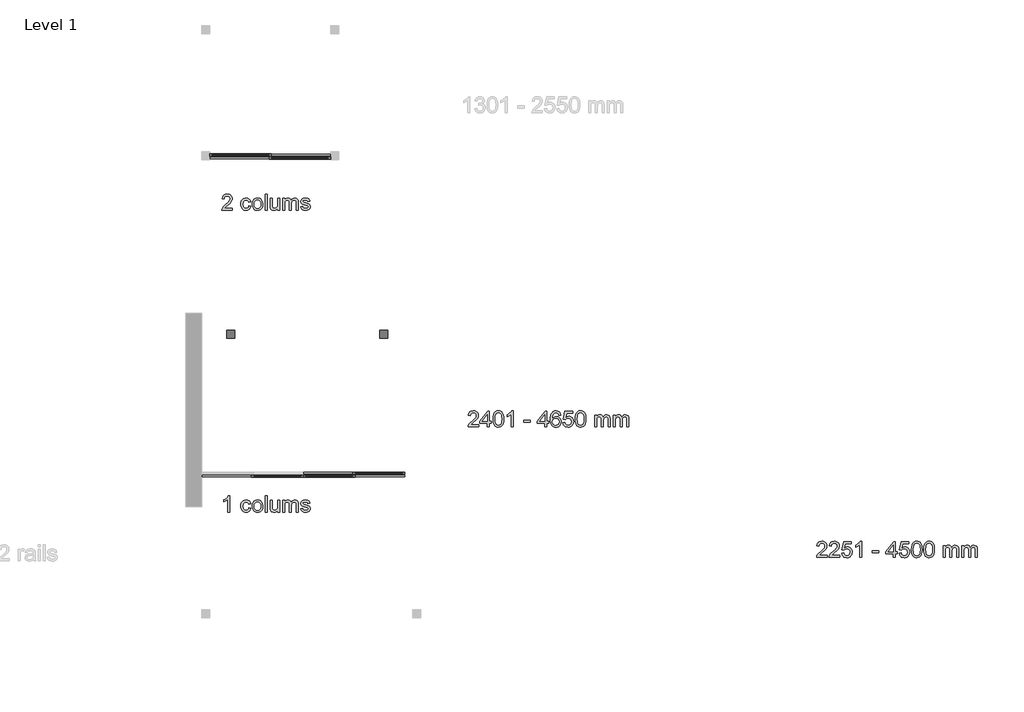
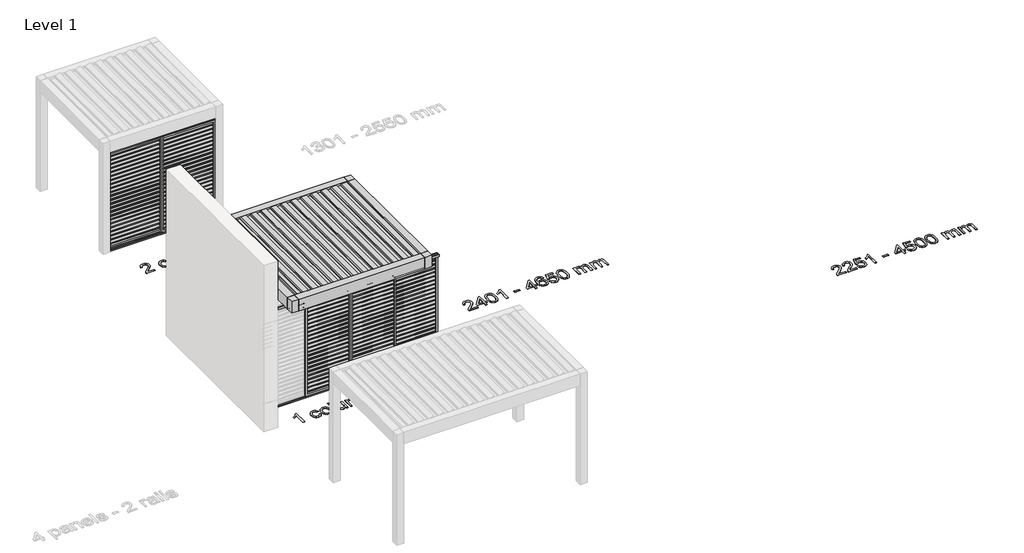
# One storey, part 34 of 69: 10 proxies.
"""IFC4 building model written with IfcOpenShell, lengths in millimetres."""

from ifc_helpers import new_model, si_unit, origin, origin_with_axes, place, context, project, spatial, polyline, outline, extrude, transform, mapped, element, save
from components import generic_models_f1411d27, generic_models_b7cc87ee, generic_models_f57387b0, generic_models_8f5adf67, generic_models_a1f2db59, generic_models_ce49d216

model = new_model("IFC4")

# Units and contexts
model_context = context("Model", 3, world=origin())
ifc_project = project(units=[si_unit("LENGTHUNIT", "METRE", prefix="MILLI")], contexts=[model_context])

# Site, building, storey
site = spatial("IfcSite", under=ifc_project)
building = spatial("IfcBuilding", under=site)
storey = spatial("IfcBuildingStorey", under=building, Name="Level 1", Elevation=0.0)

# Proxies
placement = place(None, origin())
generic_models_shape = generic_models_f1411d27(model_context)
element("IfcBuildingElementProxy", 1, Name="Renson_Camargue_Loggia_Paro_Aluminium : Renson_Camargue_Loggia_Paro_Aluminium", ObjectType="Renson_Camargue_Loggia_Paro_Aluminium : Renson_Camargue_Loggia_Paro_Aluminium", at=placement, inside=storey, context=model_context, shape_type="MappedRepresentation", body=[
    mapped(generic_models_shape, transform((229971.2027724, -16206.484658, 0.0), x_axis=(1.0, 0.0, 0.0), y_axis=(0.0, 1.0, 0.0), z_axis=(0.0, 0.0, 1.0))),
])
generic_models_2_shape = generic_models_b7cc87ee(model_context)
element("IfcBuildingElementProxy", 2, Name="Renson_Camargue_Loggia_Paro_Aluminium : Renson_Camargue_Loggia_Paro_Aluminium", ObjectType="Renson_Camargue_Loggia_Paro_Aluminium : Renson_Camargue_Loggia_Paro_Aluminium", at=placement, inside=storey, context=model_context, shape_type="MappedRepresentation", body=[
    mapped(generic_models_2_shape, transform((231076.2027724, -16262.5751621, 0.0), x_axis=(1.0, 0.0, 0.0), y_axis=(0.0, 1.0, 0.0), z_axis=(0.0, 0.0, 1.0))),
])
generic_models_3_shape = generic_models_f57387b0(model_context)
element("IfcBuildingElementProxy", 3, Name="Renson_Camargue_Loggia_Paro_Aluminium : Renson_Camargue_Loggia_Paro_Aluminium", ObjectType="Renson_Camargue_Loggia_Paro_Aluminium : Renson_Camargue_Loggia_Paro_Aluminium", at=placement, inside=storey, context=model_context, shape_type="MappedRepresentation", body=[
    mapped(generic_models_3_shape, transform((230656.2027724, -22183.0299225, 0.0), x_axis=(1.0, 0.0, 0.0), y_axis=(0.0, 1.0, 0.0), z_axis=(0.0, 0.0, 1.0))),
])
generic_models_4_shape = generic_models_8f5adf67(model_context)
element("IfcBuildingElementProxy", 4, Name="Renson_Camargue_Loggia_Paro_Aluminium : Renson_Camargue_Loggia_Paro_Aluminium", ObjectType="Renson_Camargue_Loggia_Paro_Aluminium : Renson_Camargue_Loggia_Paro_Aluminium", at=placement, inside=storey, context=model_context, shape_type="MappedRepresentation", body=[
    mapped(generic_models_4_shape, transform((232546.2027724, -22126.9394184, 0.0), x_axis=(-1.0, 0.0, 0.0), y_axis=(0.0, -1.0, 0.0), z_axis=(0.0, 0.0, 1.0))),
])
generic_models_5_shape = generic_models_a1f2db59(model_context)
element("IfcBuildingElementProxy", 5, Name="Renson_Camargue_Loggia_Paro_Aluminium : Renson_Camargue_Loggia_Paro_Aluminium", ObjectType="Renson_Camargue_Loggia_Paro_Aluminium : Renson_Camargue_Loggia_Paro_Aluminium", at=placement, inside=storey, context=model_context, shape_type="MappedRepresentation", body=[
    mapped(generic_models_5_shape, transform((231621.2027724, -22183.0299225, 0.0), x_axis=(-1.0, 0.0, 0.0), y_axis=(0.0, -1.0, 0.0), z_axis=(0.0, 0.0, 1.0))),
])
generic_models_6_shape = generic_models_ce49d216(model_context)
element("IfcBuildingElementProxy", 6, Name="Renson_Camargue_Facade-Mounted_Patio covers : Renson_Camargue_Facade-Mounted_Patio covers", ObjectType="Renson_Camargue_Facade-Mounted_Patio covers : Renson_Camargue_Facade-Mounted_Patio covers", at=placement, inside=storey, context=model_context, shape_type="MappedRepresentation", body=[
    mapped(generic_models_6_shape, transform((231213.7027724, -20966.9394184, 0.0), x_axis=(1.0, 0.0, 0.0), y_axis=(0.0, 1.0, 0.0), z_axis=(0.0, 0.0, 1.0))),
])
element("IfcBuildingElementProxy", 7, Name="300mm Arial", ObjectType="300mm Arial", at=placement, inside=storey, context=model_context, shape_type="SweptSolid", body=[
    extrude(outline(polyline([(229821.478426, -17195.4816949), (229821.478426, -17233.1528113), (229623.7050654, -17233.1528113), (229627.7517673, -17207.1803424), (229637.0407877, -17186.8824533), (229650.6340274, -17167.1915695), (229670.2973201, -17146.5809807), (229697.7964992, -17123.5239767), (229738.4474597, -17087.4163589), (229762.838036, -17060.7633083), (229775.0333241, -17039.131847), (229779.0984202, -17018.0889969), (229775.2632504, -16999.2258476), (229763.757741, -16983.5448775), (229746.071814, -16972.9774672), (229723.6953917, -16969.4549971), (229700.1969292, -16972.8946938), (229681.9407852, -16983.2137837), (229670.1593643, -16999.6029266), (229666.0850712, -17021.252782), (229628.4139549, -17016.5438925), (229637.5466255, -16980.1051809), (229646.0929841, -16965.5692435), (229657.2926916, -16953.4889185), (229670.8882305, -16943.9929645), (229686.6220836, -16937.2101402), (229724.5047321, -16931.7838808), (229744.6945558, -16933.292197), (229762.663292, -16937.8171455), (229778.4109407, -16945.3587264), (229791.9375018, -16955.9169397), (229802.801517, -16968.7100361), (229810.5615278, -16982.9562663), (229815.2175343, -16998.6556305), (229816.7695365, -17015.8081285), (229815.0956734, -17033.8251492), (229810.0740842, -17051.5294702), (229801.1621428, -17069.5372939), (229787.8172234, -17088.4648226), (229766.5444471, -17111.0619741), (229733.8489348, -17140.0786665), (229690.5124357, -17176.315043), (229673.5162875, -17195.4816949), (229821.478426, -17195.4816949)])), origin_with_axes(), (0.0, 0.0, 1.0), 5.0),
    extrude(outline(polyline([(230127.556246, -17153.1016891), (230165.2273623, -17157.8105786), (230154.7243313, -17191.3154314), (230134.9874623, -17216.6349097), (230107.8745593, -17232.555003), (230075.2434263, -17237.8617008), (230054.1155034, -17236.0107945), (230035.17188, -17230.4580756), (230018.4125558, -17221.2035442), (230003.837531, -17208.2472002), (229992.0400153, -17191.8327654), (229983.6132183, -17172.2039617), (229978.5571402, -17149.3607891), (229976.8717808, -17123.3032475), (229979.7504574, -17089.7800007), (229988.3864872, -17060.7265201), (230002.917826, -17037.2648459), (230023.4824296, -17020.517018), (230048.084538, -17010.4738396), (230074.7283915, -17007.1261134), (230106.5593811, -17011.7246384), (230132.0076181, -17025.5202132), (230150.2637621, -17047.7770739), (230160.5184728, -17077.7594565), (230122.8473565, -17082.468346), (230116.0139484, -17066.0332179), (230105.3729617, -17054.251797), (230091.5130075, -17047.1608715), (230075.0226971, -17044.7972297), (230050.6781061, -17049.450937), (230031.3551043, -17063.4120587), (230018.7459489, -17087.434753), (230014.5428971, -17122.2731779), (230018.6539784, -17157.5806524), (230030.9872223, -17181.6861201), (230049.9607362, -17195.5644684), (230073.9926275, -17200.1905845), (230093.4995703, -17197.3027108), (230109.49324, -17188.6390898), (230121.1275081, -17173.9789923), (230127.556246, -17153.1016891)])), origin_with_axes(), (0.0, 0.0, 1.0), 5.0),
    extrude(outline(polyline([(230188.77181, -17122.4939071), (230190.8089565, -17093.8313012), (230196.9203962, -17069.1326237), (230207.1061289, -17048.3978748), (230221.3661548, -17031.6270543), (230235.7227496, -17020.9078927), (230251.5692666, -17013.2513486), (230268.9057056, -17008.6574222), (230287.7320667, -17007.1261134), (230308.5151002, -17008.9908153), (230327.3069723, -17014.5849209), (230344.1076832, -17023.9084302), (230358.9172328, -17036.9613432), (230371.0044556, -17053.3022016), (230379.6381861, -17072.4895469), (230384.8184245, -17094.5233792), (230386.5451706, -17119.4036983), (230383.49175, -17157.4610907), (230374.3314884, -17186.4317979), (230359.3311, -17208.1276385), (230338.7572994, -17224.3604316), (230314.3207379, -17234.4863835), (230287.7320667, -17237.8617008), (230266.6455306, -17236.0038967), (230247.6789145, -17230.4304845), (230230.8322184, -17221.1414641), (230216.1054422, -17208.1368356), (230204.1469781, -17191.6373281), (230195.6052181, -17171.8636709), (230190.480162, -17148.8158639), (230188.77181, -17122.4939071)]), holes=[polyline([(230226.4429263, -17122.4203307), (230230.8023279, -17156.5137946), (230243.8805329, -17180.8032033), (230263.5622196, -17195.3437392), (230287.7320667, -17200.1905845), (230311.7915492, -17195.316148), (230331.4364477, -17180.6928387), (230344.5146526, -17156.0815333), (230348.8740543, -17121.2431083), (230344.4870615, -17088.1429258), (230331.3260831, -17064.1846109), (230311.6535934, -17049.644075), (230287.7320667, -17044.7972297), (230263.5622196, -17049.6256809), (230243.8805329, -17064.1110345), (230230.8023279, -17088.3452609), (230226.4429263, -17122.4203307)])]), origin_with_axes(), (0.0, 0.0, 1.0), 5.0),
    extrude(outline(polyline([(230428.9251764, -17233.1528113), (230428.9251764, -16931.7838808), (230466.5962927, -16931.7838808), (230466.5962927, -17233.1528113), (230428.9251764, -17233.1528113)])), origin_with_axes(), (0.0, 0.0, 1.0), 5.0),
    extrude(outline(polyline([(230664.3696534, -17233.1528113), (230664.3696534, -17195.113813), (230650.7396254, -17213.8160139), (230634.8655173, -17227.1747288), (230616.7473291, -17235.1899578), (230596.3850606, -17237.8617008), (230578.0369461, -17235.9855026), (230560.9580245, -17230.3569081), (230546.6290208, -17221.8956222), (230536.53066, -17211.5213499), (230525.3102592, -17183.7830475), (230523.1029672, -17148.7606816), (230523.1029672, -17011.835003), (230560.7740835, -17011.835003), (230560.7740835, -17131.0287694), (230563.0549519, -17169.4356497), (230568.5455907, -17182.2471402), (230577.9541727, -17191.986816), (230590.6552986, -17198.1396424), (230606.0235689, -17200.1905845), (230622.2747561, -17198.0936571), (230637.4774795, -17191.802875), (230650.0130585, -17181.8976523), (230658.2628122, -17168.9574031), (230662.8429431, -17151.234688), (230664.3696534, -17126.9820674), (230664.3696534, -17011.835003), (230702.0407697, -17011.835003), (230702.0407697, -17233.1528113), (230664.3696534, -17233.1528113)])), origin_with_axes(), (0.0, 0.0, 1.0), 5.0),
    extrude(outline(polyline([(230753.8385546, -17233.1528113), (230753.8385546, -17011.835003), (230791.5096709, -17011.835003), (230791.5096709, -17048.2553205), (230802.8404363, -17031.5258867), (230817.4085633, -17018.4200907), (230834.7174112, -17009.9496077), (230854.2703393, -17007.1261134), (230875.2212189, -17010.00479), (230892.015032, -17018.6408199), (230904.559808, -17032.4639858), (230912.7635765, -17050.9040708), (230926.494772, -17031.7512145), (230942.1573479, -17018.0706028), (230959.7513043, -17009.8622358), (230979.2766412, -17007.1261134), (231007.5943578, -17011.6786531), (231028.5360404, -17025.3362722), (231041.4762896, -17048.4668526), (231045.789706, -17081.4382764), (231045.789706, -17233.1528113), (231008.1185896, -17233.1528113), (231008.1185896, -17097.6250842), (231004.6237107, -17066.1711736), (230999.7124861, -17057.4983556), (230991.9685701, -17050.6833416), (230982.008165, -17046.2687577), (230970.4474733, -17044.7972297), (230950.0392197, -17048.5680202), (230933.4017564, -17059.8803915), (230922.3377054, -17079.506896), (230918.6496884, -17108.2200857), (230918.6496884, -17233.1528113), (230880.9785721, -17233.1528113), (230880.9785721, -17093.4312295), (230878.7988713, -17072.130862), (230872.2597688, -17056.9373356), (230860.7542594, -17047.8322562), (230843.6753378, -17044.7972297), (230829.1623931, -17046.8205807), (230815.7898826, -17052.8906336), (230804.7534227, -17062.8602357), (230797.24863, -17076.5822341), (230792.9444107, -17095.6201274), (230791.5096709, -17121.5374139), (230791.5096709, -17233.1528113), (230753.8385546, -17233.1528113)])), origin_with_axes(), (0.0, 0.0, 1.0), 5.0),
    extrude(outline(polyline([(231088.1697118, -17167.2283577), (231125.8408281, -17162.5194682), (231131.7821223, -17178.6326996), (231143.2784347, -17190.4784998), (231160.4033416, -17197.7625633), (231183.2304194, -17200.1905845), (231205.7815857, -17197.9648984), (231221.6372996, -17191.2878402), (231231.0182905, -17181.6125437), (231234.1452875, -17170.3921429), (231230.9998964, -17160.7904228), (231221.5637233, -17153.4695711), (231182.788961, -17142.7274168), (231126.0615573, -17124.2965289), (231111.7049624, -17115.0350997), (231101.303099, -17102.7754322), (231094.9847258, -17088.2992757), (231092.8786013, -17072.3883794), (231094.5708585, -17057.7926612), (231099.64763, -17044.3189831), (231107.6490634, -17032.500774), (231118.1153062, -17022.8714628), (231142.0644241, -17011.7246384), (231174.4748279, -17007.1261134), (231198.9941628, -17008.9747204), (231220.3129245, -17014.5205415), (231237.4562254, -17023.2209507), (231249.4491785, -17034.5333221), (231257.3954296, -17049.2945871), (231262.3986247, -17068.3416774), (231224.7275084, -17073.050567), (231219.9726336, -17061.1955697), (231210.5640516, -17052.2652342), (231196.4097918, -17046.6642308), (231177.4178838, -17044.7972297), (231155.7864225, -17046.5814574), (231141.3654483, -17051.9341404), (231133.2536503, -17059.6596623), (231130.5497176, -17068.5624066), (231135.037878, -17079.5252901), (231149.0909702, -17087.8394232), (231181.5381622, -17095.8592507), (231236.8308261, -17113.5911628), (231251.4357413, -17122.0708428), (231262.5089893, -17133.6775198), (231269.4895502, -17148.4479819), (231271.8164038, -17166.4190173), (231269.08488, -17184.9970581), (231260.8903085, -17202.4714529), (231247.5453892, -17217.4718412), (231229.3628215, -17228.6278627), (231207.4002664, -17235.5532413), (231182.7153846, -17237.8617008), (231144.7315686, -17233.4103287), (231117.0116602, -17220.0562122), (231098.5071959, -17197.9465043), (231088.1697118, -17167.2283577)])), origin_with_axes(), (0.0, 0.0, 1.0), 5.0),
])
element("IfcBuildingElementProxy", 8, Name="300mm Arial", ObjectType="300mm Arial", at=placement, inside=storey, context=model_context, shape_type="SweptSolid", body=[
    extrude(outline(polyline([(229769.6806411, -22853.6075717), (229732.0095248, -22853.6075717), (229732.0095248, -22618.751706), (229696.3249712, -22644.1723518), (229656.6672922, -22663.191851), (229656.6672922, -22627.5808738), (229686.2542016, -22611.4860366), (229711.8863796, -22592.3377787), (229732.0922982, -22571.9755103), (229745.4004294, -22552.2386412), (229769.6806411, -22552.2386412), (229769.6806411, -22853.6075717)])), origin_with_axes(), (0.0, 0.0, 1.0), 5.0),
    extrude(outline(polyline([(230127.556246, -22773.5564495), (230165.2273623, -22778.2653391), (230154.7243313, -22811.7701918), (230134.9874623, -22837.0896701), (230107.8745593, -22853.0097634), (230075.2434263, -22858.3164612), (230054.1155034, -22856.4655549), (230035.17188, -22850.9128361), (230018.4125558, -22841.6583046), (230003.837531, -22828.7019606), (229992.0400153, -22812.2875258), (229983.6132183, -22792.6587221), (229978.5571402, -22769.8155495), (229976.8717808, -22743.7580079), (229979.7504574, -22710.2347611), (229988.3864872, -22681.1812805), (230002.917826, -22657.7196063), (230023.4824296, -22640.9717785), (230048.084538, -22630.9286), (230074.7283915, -22627.5808738), (230106.5593811, -22632.1793988), (230132.0076181, -22645.9749736), (230150.2637621, -22668.2318343), (230160.5184728, -22698.2142169), (230122.8473565, -22702.9231065), (230116.0139484, -22686.4879783), (230105.3729617, -22674.7065574), (230091.5130075, -22667.615632), (230075.0226971, -22665.2519901), (230050.6781061, -22669.9056974), (230031.3551043, -22683.8668191), (230018.7459489, -22707.8895134), (230014.5428971, -22742.7279383), (230018.6539784, -22778.0354128), (230030.9872223, -22802.1408806), (230049.9607362, -22816.0192288), (230073.9926275, -22820.6453449), (230093.4995703, -22817.7574712), (230109.49324, -22809.0938503), (230121.1275081, -22794.4337528), (230127.556246, -22773.5564495)])), origin_with_axes(), (0.0, 0.0, 1.0), 5.0),
    extrude(outline(polyline([(230188.77181, -22742.9486675), (230190.8089565, -22714.2860616), (230196.9203962, -22689.5873841), (230207.1061289, -22668.8526352), (230221.3661548, -22652.0818147), (230235.7227496, -22641.3626531), (230251.5692666, -22633.7061091), (230268.9057056, -22629.1121826), (230287.7320667, -22627.5808738), (230308.5151002, -22629.4455757), (230327.3069723, -22635.0396813), (230344.1076832, -22644.3631906), (230358.9172328, -22657.4161037), (230371.0044556, -22673.756962), (230379.6381861, -22692.9443073), (230384.8184245, -22714.9781396), (230386.5451706, -22739.8584588), (230383.49175, -22777.9158512), (230374.3314884, -22806.8865583), (230359.3311, -22828.582399), (230338.7572994, -22844.815192), (230314.3207379, -22854.9411439), (230287.7320667, -22858.3164612), (230266.6455306, -22856.4586571), (230247.6789145, -22850.8852449), (230230.8322184, -22841.5962245), (230216.1054422, -22828.591596), (230204.1469781, -22812.0920885), (230195.6052181, -22792.3184313), (230190.480162, -22769.2706243), (230188.77181, -22742.9486675)]), holes=[polyline([(230226.4429263, -22742.8750911), (230230.8023279, -22776.968555), (230243.8805329, -22801.2579638), (230263.5622196, -22815.7984996), (230287.7320667, -22820.6453449), (230311.7915492, -22815.7709085), (230331.4364477, -22801.1475992), (230344.5146526, -22776.5362937), (230348.8740543, -22741.6978687), (230344.4870615, -22708.5976862), (230331.3260831, -22684.6393713), (230311.6535934, -22670.0988354), (230287.7320667, -22665.2519901), (230263.5622196, -22670.0804413), (230243.8805329, -22684.5657949), (230230.8023279, -22708.8000213), (230226.4429263, -22742.8750911)])]), origin_with_axes(), (0.0, 0.0, 1.0), 5.0),
    extrude(outline(polyline([(230428.9251764, -22853.6075717), (230428.9251764, -22552.2386412), (230466.5962927, -22552.2386412), (230466.5962927, -22853.6075717), (230428.9251764, -22853.6075717)])), origin_with_axes(), (0.0, 0.0, 1.0), 5.0),
    extrude(outline(polyline([(230664.3696534, -22853.6075717), (230664.3696534, -22815.5685734), (230650.7396254, -22834.2707743), (230634.8655173, -22847.6294893), (230616.7473291, -22855.6447182), (230596.3850606, -22858.3164612), (230578.0369461, -22856.440263), (230560.9580245, -22850.8116685), (230546.6290208, -22842.3503826), (230536.53066, -22831.9761104), (230525.3102592, -22804.2378079), (230523.1029672, -22769.215442), (230523.1029672, -22632.2897634), (230560.7740835, -22632.2897634), (230560.7740835, -22751.4835298), (230563.0549519, -22789.8904101), (230568.5455907, -22802.7019006), (230577.9541727, -22812.4415764), (230590.6552986, -22818.5944028), (230606.0235689, -22820.6453449), (230622.2747561, -22818.5484175), (230637.4774795, -22812.2576354), (230650.0130585, -22802.3524127), (230658.2628122, -22789.4121635), (230662.8429431, -22771.6894484), (230664.3696534, -22747.4368279), (230664.3696534, -22632.2897634), (230702.0407697, -22632.2897634), (230702.0407697, -22853.6075717), (230664.3696534, -22853.6075717)])), origin_with_axes(), (0.0, 0.0, 1.0), 5.0),
    extrude(outline(polyline([(230753.8385546, -22853.6075717), (230753.8385546, -22632.2897634), (230791.5096709, -22632.2897634), (230791.5096709, -22668.7100809), (230802.8404363, -22651.9806472), (230817.4085633, -22638.8748511), (230834.7174112, -22630.4043682), (230854.2703393, -22627.5808738), (230875.2212189, -22630.4595505), (230892.015032, -22639.0955803), (230904.559808, -22652.9187463), (230912.7635765, -22671.3588313), (230926.494772, -22652.2059749), (230942.1573479, -22638.5253632), (230959.7513043, -22630.3169962), (230979.2766412, -22627.5808738), (231007.5943578, -22632.1334135), (231028.5360404, -22645.7910326), (231041.4762896, -22668.9216131), (231045.789706, -22701.8930369), (231045.789706, -22853.6075717), (231008.1185896, -22853.6075717), (231008.1185896, -22718.0798447), (231004.6237107, -22686.6259341), (230999.7124861, -22677.953116), (230991.9685701, -22671.1381021), (230982.008165, -22666.7235181), (230970.4474733, -22665.2519901), (230950.0392197, -22669.0227806), (230933.4017564, -22680.335152), (230922.3377054, -22699.9616564), (230918.6496884, -22728.6748461), (230918.6496884, -22853.6075717), (230880.9785721, -22853.6075717), (230880.9785721, -22713.8859899), (230878.7988713, -22692.5856224), (230872.2597688, -22677.392096), (230860.7542594, -22668.2870166), (230843.6753378, -22665.2519901), (230829.1623931, -22667.2753411), (230815.7898826, -22673.345394), (230804.7534227, -22683.3149961), (230797.24863, -22697.0369945), (230792.9444107, -22716.0748878), (230791.5096709, -22741.9921743), (230791.5096709, -22853.6075717), (230753.8385546, -22853.6075717)])), origin_with_axes(), (0.0, 0.0, 1.0), 5.0),
    extrude(outline(polyline([(231088.1697118, -22787.6831181), (231125.8408281, -22782.9742286), (231131.7821223, -22799.08746), (231143.2784347, -22810.9332602), (231160.4033416, -22818.2173237), (231183.2304194, -22820.6453449), (231205.7815857, -22818.4196588), (231221.6372996, -22811.7426006), (231231.0182905, -22802.0673042), (231234.1452875, -22790.8469033), (231230.9998964, -22781.2451832), (231221.5637233, -22773.9243315), (231182.788961, -22763.1821773), (231126.0615573, -22744.7512893), (231111.7049624, -22735.4898601), (231101.303099, -22723.2301926), (231094.9847258, -22708.7540361), (231092.8786013, -22692.8431398), (231094.5708585, -22678.2474216), (231099.64763, -22664.7737436), (231107.6490634, -22652.9555345), (231118.1153062, -22643.3262232), (231142.0644241, -22632.1793988), (231174.4748279, -22627.5808738), (231198.9941628, -22629.4294809), (231220.3129245, -22634.9753019), (231237.4562254, -22643.6757111), (231249.4491785, -22654.9880825), (231257.3954296, -22669.7493475), (231262.3986247, -22688.7964378), (231224.7275084, -22693.5053274), (231219.9726336, -22681.6503301), (231210.5640516, -22672.7199947), (231196.4097918, -22667.1189913), (231177.4178838, -22665.2519901), (231155.7864225, -22667.0362178), (231141.3654483, -22672.3889009), (231133.2536503, -22680.1144228), (231130.5497176, -22689.017167), (231135.037878, -22699.9800505), (231149.0909702, -22708.2941836), (231181.5381622, -22716.3140111), (231236.8308261, -22734.0459232), (231251.4357413, -22742.5256032), (231262.5089893, -22754.1322802), (231269.4895502, -22768.9027423), (231271.8164038, -22786.8737778), (231269.08488, -22805.4518185), (231260.8903085, -22822.9262133), (231247.5453892, -22837.9266016), (231229.3628215, -22849.0826231), (231207.4002664, -22856.0080017), (231182.7153846, -22858.3164612), (231144.7315686, -22853.8650891), (231117.0116602, -22840.5109727), (231098.5071959, -22818.4012647), (231088.1697118, -22787.6831181)])), origin_with_axes(), (0.0, 0.0, 1.0), 5.0),
])
element("IfcBuildingElementProxy", 9, Name="300mm Arial", ObjectType="300mm Arial", at=placement, inside=storey, context=model_context, shape_type="SweptSolid", body=[
    extrude(outline(polyline([(240892.868151, -23659.7713516), (240892.868151, -23697.4424679), (240695.0947904, -23697.4424679), (240699.1414924, -23671.469999), (240708.4305128, -23651.1721099), (240722.0237525, -23631.4812262), (240741.6870451, -23610.8706374), (240769.1862243, -23587.8136333), (240809.8371847, -23551.7060155), (240834.227761, -23525.052965), (240846.4230492, -23503.4215036), (240850.4881452, -23482.3786535), (240846.6529754, -23463.5155042), (240835.147466, -23447.8345342), (240817.4615391, -23437.2671239), (240795.0851167, -23433.7446537), (240771.5866543, -23437.1843504), (240753.3305103, -23447.5034404), (240741.5490894, -23463.8925833), (240737.4747963, -23485.5424387), (240699.80368, -23480.8335491), (240708.9363505, -23444.3948375), (240717.4827091, -23429.8589002), (240728.6824166, -23417.7785752), (240742.2779556, -23408.2826212), (240758.0118087, -23401.4997969), (240795.8944571, -23396.0735374), (240816.0842809, -23397.5818536), (240834.0530171, -23402.1068022), (240849.8006657, -23409.6483831), (240863.3272268, -23420.2065963), (240874.191242, -23432.9996927), (240881.9512528, -23447.245923), (240886.6072593, -23462.9452871), (240888.1592615, -23480.0977851), (240886.4853984, -23498.1148059), (240881.4638092, -23515.8191269), (240872.5518679, -23533.8269505), (240859.2069485, -23552.7544792), (240837.9341721, -23575.3516307), (240805.2386598, -23604.3683231), (240761.9021608, -23640.6046996), (240744.9060126, -23659.7713516), (240892.868151, -23659.7713516)])), origin_with_axes(), (0.0, 0.0, 1.0), 5.0),
    extrude(outline(polyline([(241123.6037384, -23659.7713516), (241123.6037384, -23697.4424679), (240925.8303778, -23697.4424679), (240929.8770798, -23671.469999), (240939.1661001, -23651.1721099), (240952.7593399, -23631.4812262), (240972.4226325, -23610.8706374), (240999.9218116, -23587.8136333), (241040.5727721, -23551.7060155), (241064.9633484, -23525.052965), (241077.1586365, -23503.4215036), (241081.2237326, -23482.3786535), (241077.3885628, -23463.5155042), (241065.8830534, -23447.8345342), (241048.1971265, -23437.2671239), (241025.8207041, -23433.7446537), (241002.3222417, -23437.1843504), (240984.0660977, -23447.5034404), (240972.2846768, -23463.8925833), (240968.2103837, -23485.5424387), (240930.5392674, -23480.8335491), (240939.6719379, -23444.3948375), (240948.2182965, -23429.8589002), (240959.418004, -23417.7785752), (240973.013543, -23408.2826212), (240988.747396, -23401.4997969), (241026.6300445, -23396.0735374), (241046.8198682, -23397.5818536), (241064.7886044, -23402.1068022), (241080.5362531, -23409.6483831), (241094.0628142, -23420.2065963), (241104.9268294, -23432.9996927), (241112.6868402, -23447.245923), (241117.3428467, -23462.9452871), (241118.8948489, -23480.0977851), (241117.2209858, -23498.1148059), (241112.1993966, -23515.8191269), (241103.2874552, -23533.8269505), (241089.9425359, -23552.7544792), (241068.6697595, -23575.3516307), (241035.9742472, -23604.3683231), (240992.6377481, -23640.6046996), (240975.6416, -23659.7713516), (241123.6037384, -23659.7713516)])), origin_with_axes(), (0.0, 0.0, 1.0), 5.0),
    extrude(outline(polyline([(241161.2748547, -23617.3913457), (241198.945971, -23612.6824562), (241205.8621525, -23635.2980019), (241217.928682, -23651.4940067), (241235.0903771, -23661.2336825), (241257.2920555, -23664.4802411), (241284.2945939, -23659.9644896), (241304.5281037, -23646.4172352), (241317.1648502, -23625.4019762), (241321.377099, -23598.4822112), (241317.4315646, -23573.1351417), (241305.5949614, -23553.7477606), (241285.7753189, -23541.4421078), (241257.8806667, -23537.3402236), (241239.6061286, -23538.9772985), (241224.8080753, -23543.8885231), (241203.6548606, -23560.8846713), (241165.9837443, -23556.1757817), (241198.945971, -23400.782427), (241344.9215467, -23400.782427), (241344.9215467, -23438.4535433), (241229.4066002, -23438.4535433), (241213.2933688, -23521.4477214), (241240.2039368, -23505.1137608), (241268.4020917, -23499.6691073), (241286.747907, -23501.3567659), (241303.5992016, -23506.4197419), (241318.9559757, -23514.8580352), (241332.8182291, -23526.6716457), (241344.2938481, -23541.1386052), (241352.4907188, -23557.5369451), (241357.4088412, -23575.8666655), (241359.0482153, -23596.1277664), (241353.1437093, -23633.7988827), (241345.7630768, -23650.5926958), (241335.4301912, -23666.0253455), (241319.7768124, -23681.8304757), (241301.5114713, -23693.1198544), (241280.6341681, -23699.8934817), (241257.1449027, -23702.1513574), (241220.145171, -23696.348019), (241204.4665002, -23689.0938459), (241190.6686261, -23678.9380035), (241179.1884086, -23666.3863297), (241170.4627076, -23651.9446621), (241161.2748547, -23617.3913457)])), origin_with_axes(), (0.0, 0.0, 1.0), 5.0),
    extrude(outline(polyline([(241533.2771283, -23697.4424679), (241495.6060119, -23697.4424679), (241495.6060119, -23462.5866022), (241459.9214584, -23488.007248), (241420.2637793, -23507.0267472), (241420.2637793, -23471.4157701), (241449.8506888, -23455.3209328), (241475.4828668, -23436.1726749), (241495.6887854, -23415.8104065), (241508.9969166, -23396.0735374), (241533.2771283, -23396.0735374), (241533.2771283, -23697.4424679)])), origin_with_axes(), (0.0, 0.0, 1.0), 5.0),
    extrude(outline(polyline([(241731.0504889, -23607.9735667), (241731.0504889, -23570.3024504), (241848.7727273, -23570.3024504), (241848.7727273, -23607.9735667), (241731.0504889, -23607.9735667)])), origin_with_axes(), (0.0, 0.0, 1.0), 5.0),
    extrude(outline(polyline([(242121.8883205, -23697.4424679), (242121.8883205, -23626.8091248), (241985.3305239, -23626.8091248), (241985.3305239, -23589.1380085), (242131.3060996, -23400.782427), (242159.5594368, -23400.782427), (242159.5594368, -23589.1380085), (242197.2305531, -23589.1380085), (242197.2305531, -23626.8091248), (242159.5594368, -23626.8091248), (242159.5594368, -23697.4424679), (242121.8883205, -23697.4424679)]), holes=[polyline([(242121.8883205, -23589.1380085), (242121.8883205, -23472.7401452), (242031.6836553, -23589.1380085), (242121.8883205, -23589.1380085)])]), origin_with_axes(), (0.0, 0.0, 1.0), 5.0),
    extrude(outline(polyline([(242230.1927799, -23617.3913457), (242267.8638962, -23612.6824562), (242274.7800777, -23635.2980019), (242286.8466072, -23651.4940067), (242304.0083022, -23661.2336825), (242326.2099807, -23664.4802411), (242353.2125191, -23659.9644896), (242373.4460288, -23646.4172352), (242386.0827754, -23625.4019762), (242390.2950242, -23598.4822112), (242386.3494898, -23573.1351417), (242374.5128866, -23553.7477606), (242354.6932441, -23541.4421078), (242326.7985919, -23537.3402236), (242308.5240537, -23538.9772985), (242293.7260005, -23543.8885231), (242272.5727858, -23560.8846713), (242234.9016695, -23556.1757817), (242267.8638962, -23400.782427), (242413.8394719, -23400.782427), (242413.8394719, -23438.4535433), (242298.3245254, -23438.4535433), (242282.211294, -23521.4477214), (242309.121862, -23505.1137608), (242337.3200169, -23499.6691073), (242355.6658322, -23501.3567659), (242372.5171268, -23506.4197419), (242387.8739008, -23514.8580352), (242401.7361543, -23526.6716457), (242413.2117733, -23541.1386052), (242421.408644, -23557.5369451), (242426.3267664, -23575.8666655), (242427.9661405, -23596.1277664), (242422.0616345, -23633.7988827), (242414.681002, -23650.5926958), (242404.3481164, -23666.0253455), (242388.6947375, -23681.8304757), (242370.4293965, -23693.1198544), (242349.5520933, -23699.8934817), (242326.0628279, -23702.1513574), (242289.0630962, -23696.348019), (242273.3844254, -23689.0938459), (242259.5865513, -23678.9380035), (242248.1063338, -23666.3863297), (242239.3806327, -23651.9446621), (242230.1927799, -23617.3913457)])), origin_with_axes(), (0.0, 0.0, 1.0), 5.0),
    extrude(outline(polyline([(242460.9283673, -23549.1860238), (242463.6966793, -23500.9474972), (242472.0016153, -23462.4762376), (242485.760402, -23433.1836337), (242504.8902657, -23412.4810744), (242529.5291623, -23400.1754217), (242559.8150476, -23396.0735374), (242583.0284015, -23398.5015586), (242603.8137342, -23405.7856221), (242621.1961585, -23417.6406194), (242634.200787, -23433.7814419), (242644.0232363, -23454.070134), (242651.8591228, -23478.3687398), (242656.9910766, -23509.2248421), (242658.7017279, -23549.1860238), (242655.961007, -23597.148639), (242647.7388444, -23635.5279281), (242634.0628313, -23664.8481231), (242614.9605587, -23685.6334558), (242590.2664797, -23698.021882), (242559.8150476, -23702.1513574), (242539.0665031, -23700.3579327), (242520.6724033, -23694.9776585), (242504.6327483, -23686.0105349), (242490.9475381, -23673.4565618), (242477.8141509, -23650.7628412), (242468.43316, -23622.4865114), (242462.8045655, -23588.6275722), (242460.9283673, -23549.1860238)]), holes=[polyline([(242498.5994836, -23549.1124474), (242503.0140675, -23608.3690398), (242508.5322975, -23628.6370385), (242516.2578194, -23642.6648388), (242535.9762943, -23659.0263905), (242559.8150476, -23664.4802411), (242583.6538009, -23659.0079964), (242603.3722758, -23642.5912624), (242611.0977977, -23628.5404695), (242616.6160277, -23608.2770693), (242621.0306116, -23549.1124474), (242616.7631804, -23491.1894273), (242611.4288915, -23470.9881072), (242603.960887, -23456.6269138), (242584.2792003, -23439.4652188), (242559.3735892, -23433.7446537), (242535.7923533, -23438.7846371), (242516.8464306, -23453.9045871), (242508.8633913, -23469.5395719), (242503.1612203, -23490.6192102), (242498.5994836, -23549.1124474)])]), origin_with_axes(), (0.0, 0.0, 1.0), 5.0),
    extrude(outline(polyline([(242691.6639547, -23549.1860238), (242694.4322667, -23500.9474972), (242702.7372027, -23462.4762376), (242716.4959893, -23433.1836337), (242735.6258531, -23412.4810744), (242760.2647497, -23400.1754217), (242790.550635, -23396.0735374), (242813.7639889, -23398.5015586), (242834.5493216, -23405.7856221), (242851.9317459, -23417.6406194), (242864.9363744, -23433.7814419), (242874.7588237, -23454.070134), (242882.5947102, -23478.3687398), (242887.726664, -23509.2248421), (242889.4373153, -23549.1860238), (242886.6965944, -23597.148639), (242878.4744318, -23635.5279281), (242864.7984186, -23664.8481231), (242845.696146, -23685.6334558), (242821.0020671, -23698.021882), (242790.550635, -23702.1513574), (242769.8020904, -23700.3579327), (242751.4079907, -23694.9776585), (242735.3683357, -23686.0105349), (242721.6831255, -23673.4565618), (242708.5497382, -23650.7628412), (242699.1687474, -23622.4865114), (242693.5401528, -23588.6275722), (242691.6639547, -23549.1860238)]), holes=[polyline([(242729.335071, -23549.1124474), (242733.7496549, -23608.3690398), (242739.2678848, -23628.6370385), (242746.9934067, -23642.6648388), (242766.7118817, -23659.0263905), (242790.550635, -23664.4802411), (242814.3893883, -23659.0079964), (242834.1078632, -23642.5912624), (242841.8333851, -23628.5404695), (242847.351615, -23608.2770693), (242851.766199, -23549.1124474), (242847.4987678, -23491.1894273), (242842.1644789, -23470.9881072), (242834.6964744, -23456.6269138), (242815.0147876, -23439.4652188), (242790.1091766, -23433.7446537), (242766.5279407, -23438.7846371), (242747.5820179, -23453.9045871), (242739.5989786, -23469.5395719), (242733.8968077, -23490.6192102), (242729.335071, -23549.1124474)])]), origin_with_axes(), (0.0, 0.0, 1.0), 5.0),
    extrude(outline(polyline([(243049.5395596, -23697.4424679), (243049.5395596, -23476.1246596), (243087.2106759, -23476.1246596), (243087.2106759, -23512.5449771), (243098.5414413, -23495.8155434), (243113.1095683, -23482.7097473), (243130.4184162, -23474.2392644), (243149.9713443, -23471.4157701), (243170.9222239, -23474.2944467), (243187.716037, -23482.9304765), (243200.260813, -23496.7536425), (243208.4645815, -23515.1937275), (243222.195777, -23496.0408711), (243237.8583529, -23482.3602594), (243255.4523093, -23474.1518924), (243274.9776462, -23471.4157701), (243303.2953628, -23475.9683097), (243324.2370454, -23489.6259288), (243337.1772946, -23512.7565093), (243341.4907109, -23545.7279331), (243341.4907109, -23697.4424679), (243303.8195946, -23697.4424679), (243303.8195946, -23561.9147409), (243300.3247157, -23530.4608303), (243295.4134911, -23521.7880122), (243287.6695751, -23514.9729983), (243277.70917, -23510.5584143), (243266.1484783, -23509.0868864), (243245.7402247, -23512.8576768), (243229.1027614, -23524.1700482), (243218.0387104, -23543.7965526), (243214.3506934, -23572.5097423), (243214.3506934, -23697.4424679), (243176.6795771, -23697.4424679), (243176.6795771, -23557.7208861), (243174.4998763, -23536.4205186), (243167.9607738, -23521.2269922), (243156.4552644, -23512.1219128), (243139.3763428, -23509.0868864), (243124.8633981, -23511.1102373), (243111.4908876, -23517.1802903), (243100.4544277, -23527.1498923), (243092.949635, -23540.8718907), (243088.6454157, -23559.909784), (243087.2106759, -23585.8270706), (243087.2106759, -23697.4424679), (243049.5395596, -23697.4424679)])), origin_with_axes(), (0.0, 0.0, 1.0), 5.0),
    extrude(outline(polyline([(243397.9973854, -23697.4424679), (243397.9973854, -23476.1246596), (243435.6685017, -23476.1246596), (243435.6685017, -23512.5449771), (243446.9992672, -23495.8155434), (243461.5673942, -23482.7097473), (243478.876242, -23474.2392644), (243498.4291701, -23471.4157701), (243519.3800497, -23474.2944467), (243536.1738628, -23482.9304765), (243548.7186388, -23496.7536425), (243556.9224073, -23515.1937275), (243570.6536028, -23496.0408711), (243586.3161787, -23482.3602594), (243603.9101352, -23474.1518924), (243623.4354721, -23471.4157701), (243651.7531886, -23475.9683097), (243672.6948712, -23489.6259288), (243685.6351204, -23512.7565093), (243689.9485368, -23545.7279331), (243689.9485368, -23697.4424679), (243652.2774205, -23697.4424679), (243652.2774205, -23561.9147409), (243648.7825415, -23530.4608303), (243643.8713169, -23521.7880122), (243636.1274009, -23514.9729983), (243626.1669959, -23510.5584143), (243614.6063042, -23509.0868864), (243594.1980505, -23512.8576768), (243577.5605873, -23524.1700482), (243566.4965362, -23543.7965526), (243562.8085192, -23572.5097423), (243562.8085192, -23697.4424679), (243525.1374029, -23697.4424679), (243525.1374029, -23557.7208861), (243522.9577021, -23536.4205186), (243516.4185997, -23521.2269922), (243504.9130903, -23512.1219128), (243487.8341686, -23509.0868864), (243473.3212239, -23511.1102373), (243459.9487134, -23517.1802903), (243448.9122535, -23527.1498923), (243441.4074608, -23540.8718907), (243437.1032415, -23559.909784), (243435.6685017, -23585.8270706), (243435.6685017, -23697.4424679), (243397.9973854, -23697.4424679)])), origin_with_axes(), (0.0, 0.0, 1.0), 5.0),
])
element("IfcBuildingElementProxy", 10, Name="300mm Arial", ObjectType="300mm Arial", at=placement, inside=storey, context=model_context, shape_type="SweptSolid", body=[
    extrude(outline(polyline([(234404.8814331, -21230.4131298), (234404.8814331, -21268.0842461), (234207.1080725, -21268.0842461), (234211.1547744, -21242.1117772), (234220.4437948, -21221.8138881), (234234.0370345, -21202.1230043), (234253.7003272, -21181.5124156), (234281.1995063, -21158.4554115), (234321.8504668, -21122.3477937), (234346.241043, -21095.6947431), (234358.4363312, -21074.0632818), (234362.5014272, -21053.0204317), (234358.6662574, -21034.1572824), (234347.160748, -21018.4763124), (234329.4748211, -21007.908902), (234307.0983988, -21004.3864319), (234283.5999363, -21007.8261286), (234265.3437923, -21018.1452186), (234253.5623714, -21034.5343614), (234249.4880783, -21056.1842169), (234211.816962, -21051.4753273), (234220.9496325, -21015.0366157), (234229.4959911, -21000.5006784), (234240.6956986, -20988.4203534), (234254.2912376, -20978.9243994), (234270.0250907, -20972.1415751), (234307.9077391, -20966.7153156), (234328.0975629, -20968.2236318), (234346.0662991, -20972.7485804), (234361.8139478, -20980.2901613), (234375.3405089, -20990.8483745), (234386.204524, -21003.6414709), (234393.9645349, -21017.8877012), (234398.6205414, -21033.5870653), (234400.1725435, -21050.7395633), (234398.4986805, -21068.756584), (234393.4770912, -21086.4609051), (234384.5651499, -21104.4687287), (234371.2202305, -21123.3962574), (234349.9474541, -21145.9934089), (234317.2519418, -21175.0101013), (234273.9154428, -21211.2464778), (234256.9192946, -21230.4131298), (234404.8814331, -21230.4131298)])), origin_with_axes(), (0.0, 0.0, 1.0), 5.0),
    extrude(outline(polyline([(234564.9836774, -21268.0842461), (234564.9836774, -21197.450903), (234428.4258808, -21197.450903), (234428.4258808, -21159.7797867), (234574.4014565, -20971.4242052), (234602.6547937, -20971.4242052), (234602.6547937, -21159.7797867), (234640.32591, -21159.7797867), (234640.32591, -21197.450903), (234602.6547937, -21197.450903), (234602.6547937, -21268.0842461), (234564.9836774, -21268.0842461)]), holes=[polyline([(234564.9836774, -21159.7797867), (234564.9836774, -21043.3819234), (234474.7790122, -21159.7797867), (234564.9836774, -21159.7797867)])]), origin_with_axes(), (0.0, 0.0, 1.0), 5.0),
    extrude(outline(polyline([(234673.2881368, -21119.827802), (234676.0564488, -21071.5892754), (234684.3613848, -21033.1180158), (234698.1201714, -21003.8254119), (234717.2500352, -20983.1228526), (234741.8889318, -20970.8171999), (234772.1748171, -20966.7153156), (234795.388171, -20969.1433368), (234816.1735037, -20976.4274003), (234833.555928, -20988.2823976), (234846.5605565, -21004.4232201), (234856.3830058, -21024.7119122), (234864.2188923, -21049.010518), (234869.3508461, -21079.8666203), (234871.0614974, -21119.827802), (234868.3207765, -21167.7904171), (234860.0986139, -21206.1697063), (234846.4226007, -21235.4899013), (234827.3203281, -21256.275234), (234802.6262492, -21268.6636602), (234772.1748171, -21272.7931356), (234751.4262725, -21270.9997109), (234733.0321728, -21265.6194367), (234716.9925178, -21256.6523131), (234703.3073076, -21244.09834), (234690.1739203, -21221.4046194), (234680.7929295, -21193.1282896), (234675.1643349, -21159.2693504), (234673.2881368, -21119.827802)]), holes=[polyline([(234710.9592531, -21119.7542256), (234715.373837, -21179.010818), (234720.8920669, -21199.2788167), (234728.6175888, -21213.306617), (234748.3360638, -21229.6681687), (234772.1748171, -21235.1220193), (234796.0135703, -21229.6497746), (234815.7320453, -21213.2330406), (234823.4575672, -21199.1822477), (234828.9757971, -21178.9188475), (234833.3903811, -21119.7542256), (234829.1229499, -21061.8312055), (234823.788661, -21041.6298854), (234816.3206565, -21027.268692), (234796.6389697, -21010.106997), (234771.7333587, -21004.3864319), (234748.1521228, -21009.4264153), (234729.2062, -21024.5463653), (234721.2231607, -21040.1813501), (234715.5209898, -21061.2609884), (234710.9592531, -21119.7542256)])]), origin_with_axes(), (0.0, 0.0, 1.0), 5.0),
    extrude(outline(polyline([(235045.2904103, -21268.0842461), (235007.619294, -21268.0842461), (235007.619294, -21033.2283804), (234971.9347404, -21058.6490262), (234932.2770614, -21077.6685254), (234932.2770614, -21042.0575482), (234961.8639708, -21025.962711), (234987.4961488, -21006.8144531), (235007.7020674, -20986.4521847), (235021.0101986, -20966.7153156), (235045.2904103, -20966.7153156), (235045.2904103, -21268.0842461)])), origin_with_axes(), (0.0, 0.0, 1.0), 5.0),
    extrude(outline(polyline([(235243.0637709, -21178.6153449), (235243.0637709, -21140.9442286), (235360.7860093, -21140.9442286), (235360.7860093, -21178.6153449), (235243.0637709, -21178.6153449)])), origin_with_axes(), (0.0, 0.0, 1.0), 5.0),
    extrude(outline(polyline([(235633.9016026, -21268.0842461), (235633.9016026, -21197.450903), (235497.343806, -21197.450903), (235497.343806, -21159.7797867), (235643.3193816, -20971.4242052), (235671.5727189, -20971.4242052), (235671.5727189, -21159.7797867), (235709.2438352, -21159.7797867), (235709.2438352, -21197.450903), (235671.5727189, -21197.450903), (235671.5727189, -21268.0842461), (235633.9016026, -21268.0842461)]), holes=[polyline([(235633.9016026, -21159.7797867), (235633.9016026, -21043.3819234), (235543.6969373, -21159.7797867), (235633.9016026, -21159.7797867)])]), origin_with_axes(), (0.0, 0.0, 1.0), 5.0),
    extrude(outline(polyline([(235935.270533, -21046.7664378), (235897.5994167, -21051.4753273), (235891.5293638, -21032.8053161), (235883.3255953, -21020.0582049), (235866.2374766, -21008.3043752), (235845.5809026, -21004.3864319), (235828.0697196, -21006.6673003), (235811.5886062, -21013.5099054), (235797.4343465, -21027.9216826), (235785.8736548, -21047.7597192), (235778.0653594, -21075.8199184), (235775.1682887, -21114.8981833), (235790.2790417, -21097.2674387), (235808.3880329, -21084.8422243), (235828.4835869, -21077.4753873), (235849.5540281, -21075.019775), (235867.6538223, -21076.6982366), (235884.3556649, -21081.7336214), (235899.6595559, -21090.1259294), (235913.5654953, -21101.8751607), (235925.1215885, -21116.2823393), (235933.3759407, -21132.6484896), (235938.3285521, -21150.9736114), (235939.9794225, -21171.257705), (235936.8708197, -21198.2326523), (235927.5450111, -21223.2394309), (235912.774549, -21244.4478279), (235893.3319856, -21260.0276304), (235870.1002376, -21269.6017593), (235843.9622218, -21272.7931356), (235821.5053253, -21270.6778142), (235801.223531, -21264.3318497), (235783.1168391, -21253.7552424), (235767.1852494, -21238.9479921), (235754.1967157, -21219.2846994), (235744.9191917, -21194.1399651), (235739.3526772, -21163.513789), (235737.4971724, -21127.4061711), (235739.5573116, -21086.9253561), (235745.7377291, -21052.3766382), (235756.038425, -21023.7600175), (235770.4593992, -21001.075494), (235786.0897854, -20986.042916), (235804.2125722, -20975.3053602), (235824.8277595, -20968.8628268), (235847.9353474, -20966.7153156), (235880.9895446, -20972.0312105), (235907.4586542, -20987.978895), (235925.9999067, -21013.3075703), (235935.270533, -21046.7664378)]), holes=[polyline([(235775.1682887, -21170.6690938), (235777.3479895, -21187.3617393), (235783.887092, -21203.3002267), (235794.0406351, -21217.0038311), (235807.0636577, -21226.9918272), (235822.7814159, -21233.0894713), (235841.0191658, -21235.1220193), (235865.8787917, -21230.9097705), (235885.4225227, -21218.2730239), (235898.0868603, -21198.4073962), (235902.3083062, -21172.5085037), (235898.1420426, -21147.6488779), (235885.6432519, -21128.6937581), (235865.7684271, -21116.691608), (235839.4740615, -21112.6908913), (235814.6512238, -21116.691608), (235793.8934823, -21128.6937581), (235779.8495871, -21147.1890254), (235775.1682887, -21170.6690938)])]), origin_with_axes(), (0.0, 0.0, 1.0), 5.0),
    extrude(outline(polyline([(235972.9416493, -21188.0331239), (236010.6127656, -21183.3242344), (236017.5289471, -21205.93978), (236029.5954766, -21222.1357849), (236046.7571716, -21231.8754607), (236068.9588501, -21235.1220193), (236095.9613885, -21230.6062678), (236116.1948982, -21217.0590134), (236128.8316448, -21196.0437544), (236133.0438936, -21169.1239894), (236129.0983592, -21143.7769199), (236117.261756, -21124.3895388), (236097.4421135, -21112.083886), (236069.5474612, -21107.9820018), (236051.2729231, -21109.6190767), (236036.4748699, -21114.5303013), (236015.3216552, -21131.5264495), (235977.6505389, -21126.8175599), (236010.6127656, -20971.4242052), (236156.5883413, -20971.4242052), (236156.5883413, -21009.0953215), (236041.0733948, -21009.0953215), (236024.9601634, -21092.0894996), (236051.8707314, -21075.755539), (236080.0688863, -21070.3108855), (236098.4147016, -21071.9985441), (236115.2659962, -21077.0615201), (236130.6227702, -21085.4998134), (236144.4850237, -21097.3134239), (236155.9606427, -21111.7803834), (236164.1575134, -21128.1787233), (236169.0756358, -21146.5084437), (236170.7150099, -21166.7695446), (236164.8105039, -21204.4406609), (236157.4298714, -21221.234474), (236147.0969858, -21236.6671237), (236131.4436069, -21252.4722539), (236113.1782659, -21263.7616326), (236092.3009627, -21270.5352599), (236068.8116973, -21272.7931356), (236031.8119656, -21266.9897971), (236016.1332948, -21259.7356241), (236002.3354207, -21249.5797817), (235990.8552032, -21237.0281079), (235982.1295021, -21222.5864403), (235972.9416493, -21188.0331239)])), origin_with_axes(), (0.0, 0.0, 1.0), 5.0),
    extrude(outline(polyline([(236203.6772367, -21119.827802), (236206.4455487, -21071.5892754), (236214.7504847, -21033.1180158), (236228.5092714, -21003.8254119), (236247.6391351, -20983.1228526), (236272.2780317, -20970.8171999), (236302.563917, -20966.7153156), (236325.7772709, -20969.1433368), (236346.5626036, -20976.4274003), (236363.9450279, -20988.2823976), (236376.9496564, -21004.4232201), (236386.7721057, -21024.7119122), (236394.6079922, -21049.010518), (236399.739946, -21079.8666203), (236401.4505973, -21119.827802), (236398.7098764, -21167.7904171), (236390.4877138, -21206.1697063), (236376.8117007, -21235.4899013), (236357.7094281, -21256.275234), (236333.0153491, -21268.6636602), (236302.563917, -21272.7931356), (236281.8153725, -21270.9997109), (236263.4212727, -21265.6194367), (236247.3816177, -21256.6523131), (236233.6964075, -21244.09834), (236220.5630203, -21221.4046194), (236211.1820294, -21193.1282896), (236205.5534349, -21159.2693504), (236203.6772367, -21119.827802)]), holes=[polyline([(236241.348353, -21119.7542256), (236245.7629369, -21179.010818), (236251.2811669, -21199.2788167), (236259.0066888, -21213.306617), (236278.7251637, -21229.6681687), (236302.563917, -21235.1220193), (236326.4026703, -21229.6497746), (236346.1211452, -21213.2330406), (236353.8466671, -21199.1822477), (236359.364897, -21178.9188475), (236363.779481, -21119.7542256), (236359.5120498, -21061.8312055), (236354.1777609, -21041.6298854), (236346.7097564, -21027.268692), (236327.0280697, -21010.106997), (236302.1224586, -21004.3864319), (236278.5412227, -21009.4264153), (236259.5953, -21024.5463653), (236251.6122607, -21040.1813501), (236245.9100897, -21061.2609884), (236241.348353, -21119.7542256)])]), origin_with_axes(), (0.0, 0.0, 1.0), 5.0),
    extrude(outline(polyline([(236561.5528416, -21268.0842461), (236561.5528416, -21046.7664378), (236599.2239579, -21046.7664378), (236599.2239579, -21083.1867553), (236610.5547234, -21066.4573216), (236625.1228504, -21053.3515255), (236642.4316982, -21044.8810426), (236661.9846263, -21042.0575482), (236682.9355059, -21044.9362249), (236699.729319, -21053.5722547), (236712.274095, -21067.3954207), (236720.4778635, -21085.8355057), (236734.209059, -21066.6826493), (236749.8716349, -21053.0020376), (236767.4655913, -21044.7936706), (236786.9909282, -21042.0575482), (236815.3086448, -21046.6100879), (236836.2503274, -21060.267707), (236849.1905766, -21083.3982875), (236853.503993, -21116.3697113), (236853.503993, -21268.0842461), (236815.8328767, -21268.0842461), (236815.8328767, -21132.5565191), (236812.3379977, -21101.1026085), (236807.4267731, -21092.4297904), (236799.6828571, -21085.6147765), (236789.7224521, -21081.2001925), (236778.1617604, -21079.7286646), (236757.7535067, -21083.499455), (236741.1160434, -21094.8118264), (236730.0519924, -21114.4383308), (236726.3639754, -21143.1515205), (236726.3639754, -21268.0842461), (236688.6928591, -21268.0842461), (236688.6928591, -21128.3626643), (236686.5131583, -21107.0622968), (236679.9740558, -21091.8687704), (236668.4685464, -21082.763691), (236651.3896248, -21079.7286646), (236636.8766801, -21081.7520155), (236623.5041696, -21087.8220684), (236612.4677097, -21097.7916705), (236604.962917, -21111.5136689), (236600.6586977, -21130.5515622), (236599.2239579, -21156.4688487), (236599.2239579, -21268.0842461), (236561.5528416, -21268.0842461)])), origin_with_axes(), (0.0, 0.0, 1.0), 5.0),
    extrude(outline(polyline([(236910.0106674, -21268.0842461), (236910.0106674, -21046.7664378), (236947.6817837, -21046.7664378), (236947.6817837, -21083.1867553), (236959.0125492, -21066.4573216), (236973.5806762, -21053.3515255), (236990.8895241, -21044.8810426), (237010.4424521, -21042.0575482), (237031.3933317, -21044.9362249), (237048.1871448, -21053.5722547), (237060.7319209, -21067.3954207), (237068.9356893, -21085.8355057), (237082.6668848, -21066.6826493), (237098.3294608, -21053.0020376), (237115.9234172, -21044.7936706), (237135.4487541, -21042.0575482), (237163.7664707, -21046.6100879), (237184.7081532, -21060.267707), (237197.6484024, -21083.3982875), (237201.9618188, -21116.3697113), (237201.9618188, -21268.0842461), (237164.2907025, -21268.0842461), (237164.2907025, -21132.5565191), (237160.7958235, -21101.1026085), (237155.8845989, -21092.4297904), (237148.1406829, -21085.6147765), (237138.1802779, -21081.2001925), (237126.6195862, -21079.7286646), (237106.2113325, -21083.499455), (237089.5738693, -21094.8118264), (237078.5098183, -21114.4383308), (237074.8218013, -21143.1515205), (237074.8218013, -21268.0842461), (237037.150685, -21268.0842461), (237037.150685, -21128.3626643), (237034.9709841, -21107.0622968), (237028.4318817, -21091.8687704), (237016.9263723, -21082.763691), (236999.8474507, -21079.7286646), (236985.3345059, -21081.7520155), (236971.9619954, -21087.8220684), (236960.9255356, -21097.7916705), (236953.4207429, -21111.5136689), (236949.1165235, -21130.5515622), (236947.6817837, -21156.4688487), (236947.6817837, -21268.0842461), (236910.0106674, -21268.0842461)])), origin_with_axes(), (0.0, 0.0, 1.0), 5.0),
])

save(model, "model.ifc")
